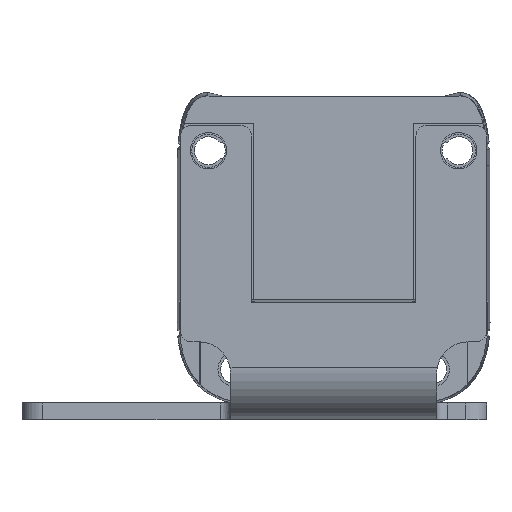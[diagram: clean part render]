
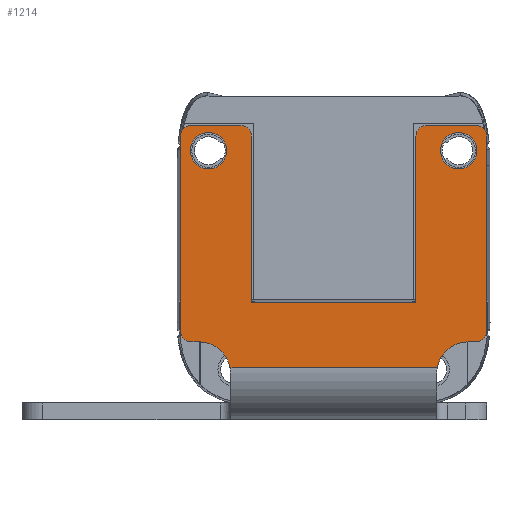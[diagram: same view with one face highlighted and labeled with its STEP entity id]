
A CAD part, front view. The second image highlights one B-rep face of the part: STEP entity #1214.
In plain terms, the highlighted planar face has unit normal (0, -1, 0).
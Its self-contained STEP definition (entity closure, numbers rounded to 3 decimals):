
#1214=ADVANCED_FACE('',(#1904,#1905,#1906),#1492,.T.);
#1492=PLANE('',#9447);
#1797=CIRCLE('',#9437,3.);
#1798=CIRCLE('',#9438,1.);
#1799=CIRCLE('',#9439,1.);
#1800=CIRCLE('',#9440,1.);
#1801=CIRCLE('',#9441,1.);
#1802=CIRCLE('',#9442,1.);
#1803=CIRCLE('',#9443,1.);
#1804=CIRCLE('',#9444,3.);
#1805=CIRCLE('',#9445,1.75);
#1806=CIRCLE('',#9446,1.75);
#1904=FACE_BOUND('',#2370,.T.);
#1905=FACE_BOUND('',#2371,.T.);
#1906=FACE_BOUND('',#2372,.T.);
#2370=EDGE_LOOP('',(#4747,#4748,#4749,#4750,#4751,#4752,#4753,#4754,#4755,
#4756,#4757,#4758,#4759,#4760,#4761,#4762,#4763,#4764));
#2371=EDGE_LOOP('',(#4765));
#2372=EDGE_LOOP('',(#4766));
#4747=ORIENTED_EDGE('',*,*,#6984,.T.);
#4748=ORIENTED_EDGE('',*,*,#6985,.F.);
#4749=ORIENTED_EDGE('',*,*,#6986,.T.);
#4750=ORIENTED_EDGE('',*,*,#6987,.T.);
#4751=ORIENTED_EDGE('',*,*,#6988,.T.);
#4752=ORIENTED_EDGE('',*,*,#6989,.T.);
#4753=ORIENTED_EDGE('',*,*,#6990,.T.);
#4754=ORIENTED_EDGE('',*,*,#6991,.F.);
#4755=ORIENTED_EDGE('',*,*,#6992,.F.);
#4756=ORIENTED_EDGE('',*,*,#6993,.T.);
#4757=ORIENTED_EDGE('',*,*,#6994,.T.);
#4758=ORIENTED_EDGE('',*,*,#6995,.F.);
#4759=ORIENTED_EDGE('',*,*,#6996,.T.);
#4760=ORIENTED_EDGE('',*,*,#6997,.F.);
#4761=ORIENTED_EDGE('',*,*,#6998,.T.);
#4762=ORIENTED_EDGE('',*,*,#6999,.T.);
#4763=ORIENTED_EDGE('',*,*,#7000,.T.);
#4764=ORIENTED_EDGE('',*,*,#7001,.T.);
#4765=ORIENTED_EDGE('',*,*,#7002,.F.);
#4766=ORIENTED_EDGE('',*,*,#7003,.T.);
#5758=VERTEX_POINT('',#15436);
#5759=VERTEX_POINT('',#15437);
#5760=VERTEX_POINT('',#15439);
#5761=VERTEX_POINT('',#15441);
#5762=VERTEX_POINT('',#15443);
#5763=VERTEX_POINT('',#15445);
#5764=VERTEX_POINT('',#15447);
#5765=VERTEX_POINT('',#15449);
#5766=VERTEX_POINT('',#15451);
#5767=VERTEX_POINT('',#15453);
#5768=VERTEX_POINT('',#15455);
#5769=VERTEX_POINT('',#15457);
#5770=VERTEX_POINT('',#15459);
#5771=VERTEX_POINT('',#15461);
#5772=VERTEX_POINT('',#15463);
#5773=VERTEX_POINT('',#15465);
#5774=VERTEX_POINT('',#15467);
#5775=VERTEX_POINT('',#15469);
#5776=VERTEX_POINT('',#15472);
#5777=VERTEX_POINT('',#15474);
#6984=EDGE_CURVE('',#5758,#5759,#1797,.T.);
#6985=EDGE_CURVE('',#5760,#5759,#7863,.T.);
#6986=EDGE_CURVE('',#5760,#5761,#1798,.T.);
#6987=EDGE_CURVE('',#5761,#5762,#7864,.T.);
#6988=EDGE_CURVE('',#5762,#5763,#1799,.T.);
#6989=EDGE_CURVE('',#5763,#5764,#7865,.T.);
#6990=EDGE_CURVE('',#5764,#5765,#1800,.T.);
#6991=EDGE_CURVE('',#5766,#5765,#7866,.T.);
#6992=EDGE_CURVE('',#5767,#5766,#7867,.T.);
#6993=EDGE_CURVE('',#5767,#5768,#7868,.T.);
#6994=EDGE_CURVE('',#5768,#5769,#1801,.T.);
#6995=EDGE_CURVE('',#5770,#5769,#7869,.T.);
#6996=EDGE_CURVE('',#5770,#5771,#1802,.T.);
#6997=EDGE_CURVE('',#5772,#5771,#7870,.T.);
#6998=EDGE_CURVE('',#5772,#5773,#1803,.T.);
#6999=EDGE_CURVE('',#5773,#5774,#7871,.T.);
#7000=EDGE_CURVE('',#5774,#5775,#1804,.T.);
#7001=EDGE_CURVE('',#5775,#5758,#7872,.T.);
#7002=EDGE_CURVE('',#5776,#5776,#1805,.T.);
#7003=EDGE_CURVE('',#5777,#5777,#1806,.T.);
#7863=LINE('',#15438,#8719);
#7864=LINE('',#15442,#8720);
#7865=LINE('',#15446,#8721);
#7866=LINE('',#15450,#8722);
#7867=LINE('',#15452,#8723);
#7868=LINE('',#15454,#8724);
#7869=LINE('',#15458,#8725);
#7870=LINE('',#15462,#8726);
#7871=LINE('',#15466,#8727);
#7872=LINE('',#15470,#8728);
#8719=VECTOR('',#11638,1.);
#8720=VECTOR('',#11641,1.);
#8721=VECTOR('',#11644,1.);
#8722=VECTOR('',#11647,1.);
#8723=VECTOR('',#11648,1.);
#8724=VECTOR('',#11649,1.);
#8725=VECTOR('',#11652,1.);
#8726=VECTOR('',#11655,1.);
#8727=VECTOR('',#11658,1.);
#8728=VECTOR('',#11661,1.);
#9437=AXIS2_PLACEMENT_3D('',#15435,#11636,#11637);
#9438=AXIS2_PLACEMENT_3D('',#15440,#11639,#11640);
#9439=AXIS2_PLACEMENT_3D('',#15444,#11642,#11643);
#9440=AXIS2_PLACEMENT_3D('',#15448,#11645,#11646);
#9441=AXIS2_PLACEMENT_3D('',#15456,#11650,#11651);
#9442=AXIS2_PLACEMENT_3D('',#15460,#11653,#11654);
#9443=AXIS2_PLACEMENT_3D('',#15464,#11656,#11657);
#9444=AXIS2_PLACEMENT_3D('',#15468,#11659,#11660);
#9445=AXIS2_PLACEMENT_3D('',#15471,#11662,#11663);
#9446=AXIS2_PLACEMENT_3D('',#15473,#11664,#11665);
#9447=AXIS2_PLACEMENT_3D('',#15475,#11666,#11667);
#11636=DIRECTION('',(0.,1.,0.));
#11637=DIRECTION('',(0.,0.,1.));
#11638=DIRECTION('',(-1.,0.,0.));
#11639=DIRECTION('',(0.,-1.,0.));
#11640=DIRECTION('',(0.,0.,1.));
#11641=DIRECTION('',(0.,0.,1.));
#11642=DIRECTION('',(0.,-1.,0.));
#11643=DIRECTION('',(0.,0.,-1.));
#11644=DIRECTION('',(-1.,0.,0.));
#11645=DIRECTION('',(0.,-1.,0.));
#11646=DIRECTION('',(0.,0.,-1.));
#11647=DIRECTION('',(0.,0.,1.));
#11648=DIRECTION('',(1.,0.,0.));
#11649=DIRECTION('',(0.,0.,1.));
#11650=DIRECTION('',(0.,-1.,0.));
#11651=DIRECTION('',(0.,0.,1.));
#11652=DIRECTION('',(1.,0.,0.));
#11653=DIRECTION('',(0.,-1.,0.));
#11654=DIRECTION('',(0.,0.,1.));
#11655=DIRECTION('',(0.,0.,1.));
#11656=DIRECTION('',(0.,-1.,0.));
#11657=DIRECTION('',(0.,0.,1.));
#11658=DIRECTION('',(1.,0.,0.));
#11659=DIRECTION('',(0.,1.,0.));
#11660=DIRECTION('',(0.,0.,1.));
#11661=DIRECTION('',(1.,0.,0.));
#11662=DIRECTION('',(0.,-1.,0.));
#11663=DIRECTION('',(0.,0.,1.));
#11664=DIRECTION('',(0.,1.,0.));
#11665=DIRECTION('',(0.,0.,-1.));
#11666=DIRECTION('',(0.,-1.,0.));
#11667=DIRECTION('',(-1.,0.,0.));
#15435=CARTESIAN_POINT('',(12.89,105.8,-139.533));
#15436=CARTESIAN_POINT('',(9.939,105.8,-138.994));
#15437=CARTESIAN_POINT('',(12.89,105.8,-136.533));
#15438=CARTESIAN_POINT('',(-7.89,105.8,-136.533));
#15439=CARTESIAN_POINT('',(13.69,105.8,-136.533));
#15440=CARTESIAN_POINT('',(13.69,105.8,-135.533));
#15441=CARTESIAN_POINT('',(14.69,105.8,-135.533));
#15442=CARTESIAN_POINT('',(14.69,105.8,-115.6));
#15443=CARTESIAN_POINT('',(14.69,105.8,-116.8));
#15444=CARTESIAN_POINT('',(13.69,105.8,-116.8));
#15445=CARTESIAN_POINT('',(13.69,105.8,-115.8));
#15446=CARTESIAN_POINT('',(7.89,105.8,-115.8));
#15447=CARTESIAN_POINT('',(8.89,105.8,-115.8));
#15448=CARTESIAN_POINT('',(8.89,105.8,-116.8));
#15449=CARTESIAN_POINT('',(7.89,105.8,-116.8));
#15450=CARTESIAN_POINT('',(7.89,105.8,-115.6));
#15451=CARTESIAN_POINT('',(7.89,105.8,-132.733));
#15452=CARTESIAN_POINT('',(-9.89,105.8,-132.733));
#15453=CARTESIAN_POINT('',(-7.89,105.8,-132.733));
#15454=CARTESIAN_POINT('',(-7.89,105.8,-115.6));
#15455=CARTESIAN_POINT('',(-7.89,105.8,-116.8));
#15456=CARTESIAN_POINT('',(-8.89,105.8,-116.8));
#15457=CARTESIAN_POINT('',(-8.89,105.8,-115.8));
#15458=CARTESIAN_POINT('',(-7.89,105.8,-115.8));
#15459=CARTESIAN_POINT('',(-13.69,105.8,-115.8));
#15460=CARTESIAN_POINT('',(-13.69,105.8,-116.8));
#15461=CARTESIAN_POINT('',(-14.69,105.8,-116.8));
#15462=CARTESIAN_POINT('',(-14.69,105.8,-115.6));
#15463=CARTESIAN_POINT('',(-14.69,105.8,-135.533));
#15464=CARTESIAN_POINT('',(-13.69,105.8,-135.533));
#15465=CARTESIAN_POINT('',(-13.69,105.8,-136.533));
#15466=CARTESIAN_POINT('',(-7.89,105.8,-136.533));
#15467=CARTESIAN_POINT('',(-12.89,105.8,-136.533));
#15468=CARTESIAN_POINT('',(-12.89,105.8,-139.533));
#15469=CARTESIAN_POINT('',(-9.939,105.8,-138.994));
#15470=CARTESIAN_POINT('',(-9.89,105.8,-138.994));
#15471=CARTESIAN_POINT('',(-12.,105.8,-118.2));
#15472=CARTESIAN_POINT('',(-12.,105.8,-116.45));
#15473=CARTESIAN_POINT('',(12.,105.8,-118.2));
#15474=CARTESIAN_POINT('',(12.,105.8,-119.95));
#15475=CARTESIAN_POINT('',(-9.89,105.8,-142.394));
